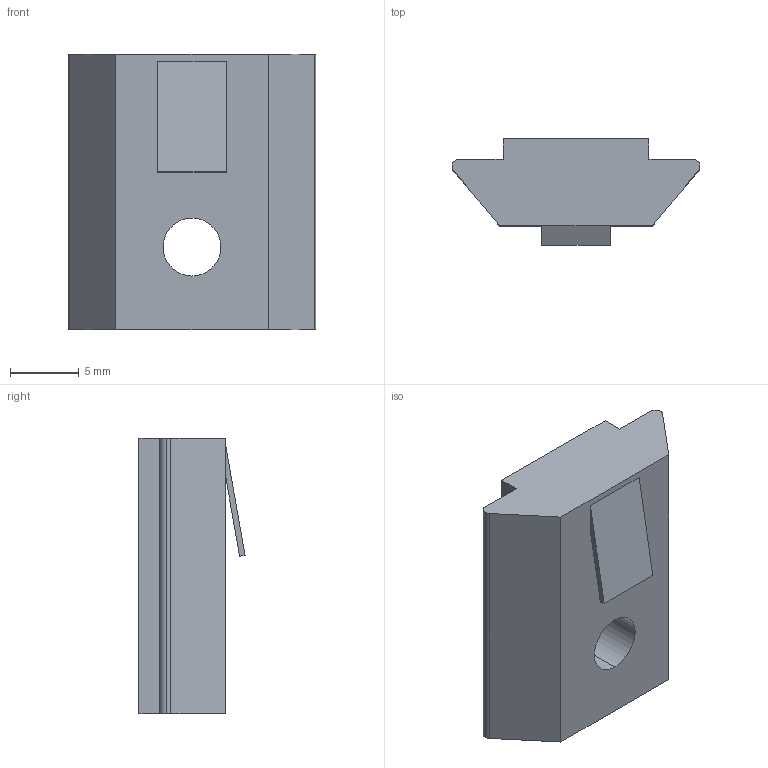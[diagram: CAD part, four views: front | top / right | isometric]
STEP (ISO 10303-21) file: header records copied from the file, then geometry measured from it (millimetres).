
FILE_DESCRIPTION (( 'STEP AP214' ), '1' );
FILE_NAME ('F45AN M5B.step', '2017-04-05T07:55:03', ( '' ), ( '' ), 'SwSTEP 2.0', 'SolidWorks 2015', '' );
FILE_SCHEMA (( 'AUTOMOTIVE_DESIGN' ));
Length unit declared in the file: millimetre
Products named in the file (1): F45AN M5B
Bounding box: 18 x 7.71 x 20 mm (x, y, z)
Volume: 1685.9 mm3; surface area: 1172.2 mm2
Topology: 1 solids, 1 shells, 20 faces, 51 edges, 34 vertices
Faces by surface type: plane 15, cylinder 5
Entity records: 665 total; most frequent: CARTESIAN_POINT 106, DIRECTION 103, ORIENTED_EDGE 102, EDGE_CURVE 51, VECTOR 41, LINE 41, VERTEX_POINT 34, AXIS2_PLACEMENT_3D 31
